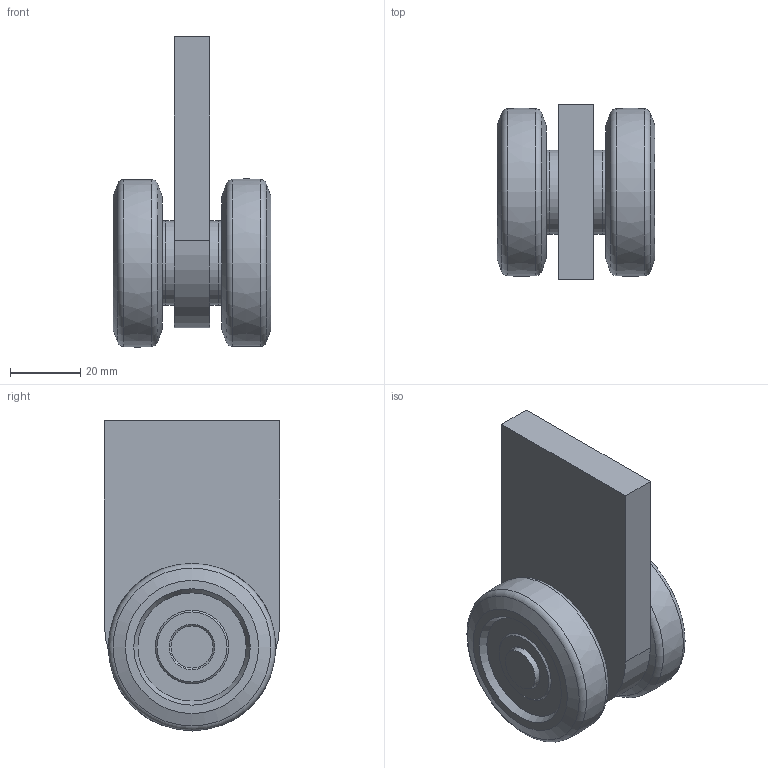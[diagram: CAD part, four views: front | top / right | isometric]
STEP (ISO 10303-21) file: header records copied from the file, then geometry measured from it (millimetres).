
FILE_DESCRIPTION(/* description */ ('Bolzen'),/* implementation_level */ '2;1');
FILE_NAME(/* name */ 'Q:\sge-ma\Produktmanagement-STB\STB\Workspace\stp\010336827.stp',/* time_stamp */ '2016-07-18T12:49:28+02:00',/* author */ ('avschreier'),/* organization */ (''),/* preprocessor_version */ 'ST-DEVELOPER v16.1',/* originating_system */ 'Autodesk Inventor 2016',/* authorisation */ '');
FILE_SCHEMA (('AUTOMOTIVE_DESIGN { 1 0 10303 214 3 1 1 }'));
Length unit declared in the file: millimetre
Products named in the file (5): 000304012; 000303237; 000302068; DIN_EN_ISO_7090-13_en; 010336827
Assembly tree (8 placements, depth 2):
  010336827
    000304012
    000303237  x2
    000302068
    DIN_EN_ISO_7090-13_en  x4
Bounding box: 45 x 50 x 88.5 mm (x, y, z)
Volume: 85346.2 mm3; surface area: 27151.2 mm2
Topology: 8 solids, 8 shells, 65 faces, 112 edges, 71 vertices
Faces by surface type: plane 27, cone 18, cylinder 14, torus 4, bspline 2
Full cylindrical faces by diameter (mm): 12 x3, 12.3 x1, 13 x4, 14 x1, 24 x4
Entity records: 942 total; most frequent: DIRECTION 170, CARTESIAN_POINT 159, ORIENTED_EDGE 88, AXIS2_PLACEMENT_3D 80, EDGE_LOOP 63, EDGE_CURVE 44, VERTEX_POINT 39, FACE_OUTER_BOUND 35
